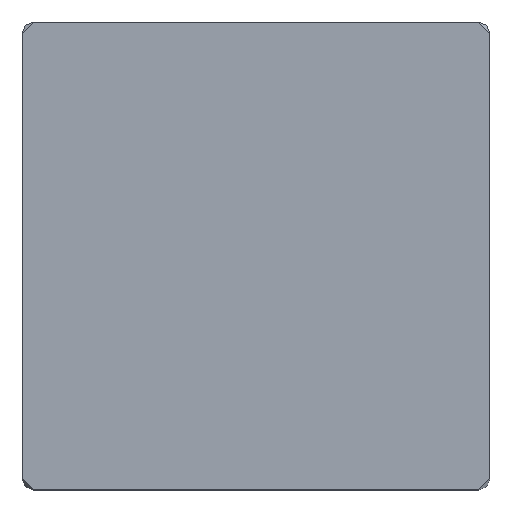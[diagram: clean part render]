
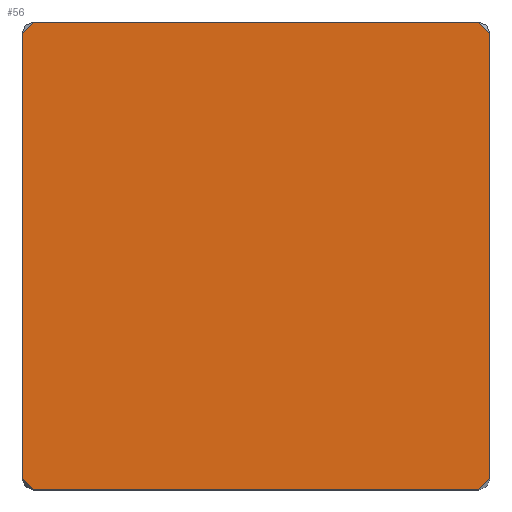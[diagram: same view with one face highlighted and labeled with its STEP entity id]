
A CAD part, top view. The second image highlights one B-rep face of the part: STEP entity #56.
In plain terms, the highlighted planar face has unit normal (0, 0, 1).
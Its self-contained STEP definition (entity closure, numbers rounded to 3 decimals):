
#56=ADVANCED_FACE($,(#80),#334,.T.);
#80=FACE_OUTER_BOUND($,#104,.T.);
#104=EDGE_LOOP($,(#138,#139,#140,#141,#142,#143,#144,#145));
#138=ORIENTED_EDGE($,*,*,#241,.T.);
#139=ORIENTED_EDGE($,*,*,#246,.T.);
#140=ORIENTED_EDGE($,*,*,#238,.T.);
#141=ORIENTED_EDGE($,*,*,#247,.T.);
#142=ORIENTED_EDGE($,*,*,#239,.T.);
#143=ORIENTED_EDGE($,*,*,#248,.T.);
#144=ORIENTED_EDGE($,*,*,#240,.T.);
#145=ORIENTED_EDGE($,*,*,#249,.T.);
#238=EDGE_CURVE($,#297,#296,#380,.T.);
#239=EDGE_CURVE($,#299,#298,#381,.T.);
#240=EDGE_CURVE($,#301,#300,#382,.T.);
#241=EDGE_CURVE($,#303,#302,#383,.T.);
#246=EDGE_CURVE($,#302,#297,#352,.T.);
#247=EDGE_CURVE($,#296,#299,#353,.T.);
#248=EDGE_CURVE($,#298,#301,#354,.T.);
#249=EDGE_CURVE($,#300,#303,#355,.T.);
#296=VERTEX_POINT($,#679);
#297=VERTEX_POINT($,#680);
#298=VERTEX_POINT($,#681);
#299=VERTEX_POINT($,#682);
#300=VERTEX_POINT($,#683);
#301=VERTEX_POINT($,#684);
#302=VERTEX_POINT($,#685);
#303=VERTEX_POINT($,#686);
#334=PLANE($,#498);
#352=(
BOUNDED_CURVE()
B_SPLINE_CURVE(2,(#573,#574,#575),.UNSPECIFIED.,.F.,.F.)
B_SPLINE_CURVE_WITH_KNOTS((3,3),(-1.,0.),.UNSPECIFIED.)
CURVE()
GEOMETRIC_REPRESENTATION_ITEM()
RATIONAL_B_SPLINE_CURVE((1.,0.707,1.))
REPRESENTATION_ITEM($)
);
#353=(
BOUNDED_CURVE()
B_SPLINE_CURVE(2,(#576,#577,#578),.UNSPECIFIED.,.F.,.F.)
B_SPLINE_CURVE_WITH_KNOTS((3,3),(0.,1.),.UNSPECIFIED.)
CURVE()
GEOMETRIC_REPRESENTATION_ITEM()
RATIONAL_B_SPLINE_CURVE((1.,0.707,1.))
REPRESENTATION_ITEM($)
);
#354=(
BOUNDED_CURVE()
B_SPLINE_CURVE(2,(#579,#580,#581),.UNSPECIFIED.,.F.,.F.)
B_SPLINE_CURVE_WITH_KNOTS((3,3),(0.,1.),.UNSPECIFIED.)
CURVE()
GEOMETRIC_REPRESENTATION_ITEM()
RATIONAL_B_SPLINE_CURVE((1.,0.707,1.))
REPRESENTATION_ITEM($)
);
#355=(
BOUNDED_CURVE()
B_SPLINE_CURVE(2,(#582,#583,#584),.UNSPECIFIED.,.F.,.F.)
B_SPLINE_CURVE_WITH_KNOTS((3,3),(0.,1.),.UNSPECIFIED.)
CURVE()
GEOMETRIC_REPRESENTATION_ITEM()
RATIONAL_B_SPLINE_CURVE((1.,0.707,1.))
REPRESENTATION_ITEM($)
);
#380=B_SPLINE_CURVE_WITH_KNOTS($,1,(#553,#554),.UNSPECIFIED.,.F.,.F.,(2,
2),(27.,1073.),.UNSPECIFIED.);
#381=B_SPLINE_CURVE_WITH_KNOTS($,1,(#555,#556),.UNSPECIFIED.,.F.,.F.,(2,
2),(27.,1073.),.UNSPECIFIED.);
#382=B_SPLINE_CURVE_WITH_KNOTS($,1,(#557,#558),.UNSPECIFIED.,.F.,.F.,(2,
2),(27.,1073.),.UNSPECIFIED.);
#383=B_SPLINE_CURVE_WITH_KNOTS($,1,(#559,#560),.UNSPECIFIED.,.F.,.F.,(2,
2),(27.,1073.),.UNSPECIFIED.);
#498=AXIS2_PLACEMENT_3D($,#619,#518,$);
#518=DIRECTION($,(0.,0.,1.));
#553=CARTESIAN_POINT($,(2119.425,-1.049,15.));
#554=CARTESIAN_POINT($,(3165.425,-1.049,15.));
#555=CARTESIAN_POINT($,(3192.425,25.951,15.));
#556=CARTESIAN_POINT($,(3192.425,1071.951,15.));
#557=CARTESIAN_POINT($,(3165.425,1098.951,15.));
#558=CARTESIAN_POINT($,(2119.425,1098.951,15.));
#559=CARTESIAN_POINT($,(2092.425,1071.951,15.));
#560=CARTESIAN_POINT($,(2092.425,25.951,15.));
#573=CARTESIAN_POINT($,(2092.425,25.951,15.));
#574=CARTESIAN_POINT($,(2092.425,-1.049,15.));
#575=CARTESIAN_POINT($,(2119.425,-1.049,15.));
#576=CARTESIAN_POINT($,(3165.425,-1.049,15.));
#577=CARTESIAN_POINT($,(3192.425,-1.049,15.));
#578=CARTESIAN_POINT($,(3192.425,25.951,15.));
#579=CARTESIAN_POINT($,(3192.425,1071.951,15.));
#580=CARTESIAN_POINT($,(3192.425,1098.951,15.));
#581=CARTESIAN_POINT($,(3165.425,1098.951,15.));
#582=CARTESIAN_POINT($,(2119.425,1098.951,15.));
#583=CARTESIAN_POINT($,(2092.425,1098.951,15.));
#584=CARTESIAN_POINT($,(2092.425,1071.951,15.));
#619=CARTESIAN_POINT($,(2092.425,-1.049,15.));
#679=CARTESIAN_POINT($,(3165.425,-1.049,15.));
#680=CARTESIAN_POINT($,(2119.425,-1.049,15.));
#681=CARTESIAN_POINT($,(3192.425,1071.951,15.));
#682=CARTESIAN_POINT($,(3192.425,25.951,15.));
#683=CARTESIAN_POINT($,(2119.425,1098.951,15.));
#684=CARTESIAN_POINT($,(3165.425,1098.951,15.));
#685=CARTESIAN_POINT($,(2092.425,25.951,15.));
#686=CARTESIAN_POINT($,(2092.425,1071.951,15.));
